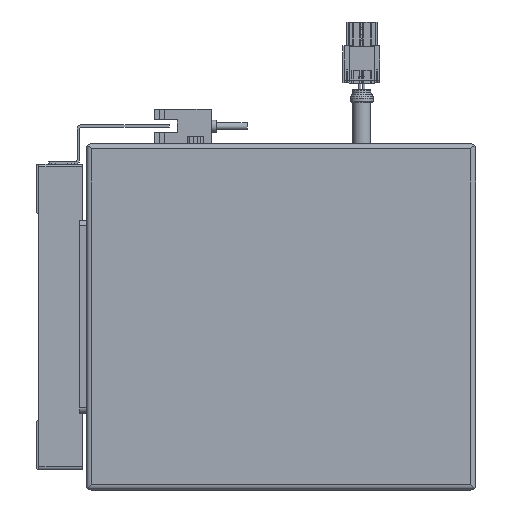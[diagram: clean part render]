
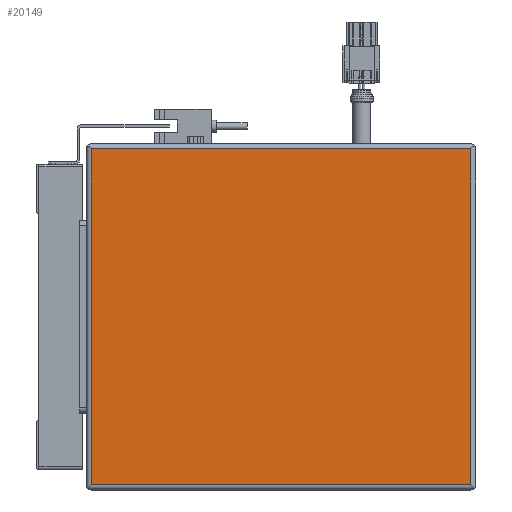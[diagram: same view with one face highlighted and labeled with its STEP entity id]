
A CAD part, left-side view. The second image highlights one B-rep face of the part: STEP entity #20149.
In plain terms, the highlighted planar face has unit normal (-1, 0, 0).
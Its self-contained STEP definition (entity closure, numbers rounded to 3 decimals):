
#4777=ORIENTED_EDGE('',*,*,#8527,.T.);
#4778=ORIENTED_EDGE('',*,*,#8528,.F.);
#4779=ORIENTED_EDGE('',*,*,#8529,.F.);
#4780=ORIENTED_EDGE('',*,*,#8530,.T.);
#8527=EDGE_CURVE('',#10746,#10747,#12881,.T.);
#8528=EDGE_CURVE('',#10748,#10747,#12882,.T.);
#8529=EDGE_CURVE('',#10749,#10748,#12883,.T.);
#8530=EDGE_CURVE('',#10749,#10746,#12884,.T.);
#10746=VERTEX_POINT('',#32171);
#10747=VERTEX_POINT('',#32172);
#10748=VERTEX_POINT('',#32174);
#10749=VERTEX_POINT('',#32176);
#12881=LINE('',#32170,#14986);
#12882=LINE('',#32173,#14987);
#12883=LINE('',#32175,#14988);
#12884=LINE('',#32177,#14989);
#14986=VECTOR('',#26192,1000.);
#14987=VECTOR('',#26193,1000.);
#14988=VECTOR('',#26194,1000.);
#14989=VECTOR('',#26195,1000.);
#16562=EDGE_LOOP('',(#4777,#4778,#4779,#4780));
#18043=FACE_BOUND('',#16562,.T.);
#19155=PLANE('',#21782);
#20149=ADVANCED_FACE('',(#18043),#19155,.F.);
#21782=AXIS2_PLACEMENT_3D('',#32169,#26190,#26191);
#26190=DIRECTION('',(1.,0.,0.));
#26191=DIRECTION('',(0.,0.,-1.));
#26192=DIRECTION('',(0.,-1.,0.));
#26193=DIRECTION('',(0.,0.,-1.));
#26194=DIRECTION('',(0.,-1.,0.));
#26195=DIRECTION('',(0.,0.,-1.));
#32169=CARTESIAN_POINT('',(-52.,2.,65.5));
#32170=CARTESIAN_POINT('',(-52.,152.,-65.5));
#32171=CARTESIAN_POINT('',(-52.,150.,-65.5));
#32172=CARTESIAN_POINT('',(-52.,2.,-65.5));
#32173=CARTESIAN_POINT('',(-52.,2.,67.5));
#32174=CARTESIAN_POINT('',(-52.,2.,65.5));
#32175=CARTESIAN_POINT('',(-52.,152.,65.5));
#32176=CARTESIAN_POINT('',(-52.,150.,65.5));
#32177=CARTESIAN_POINT('',(-52.,150.,67.5));
